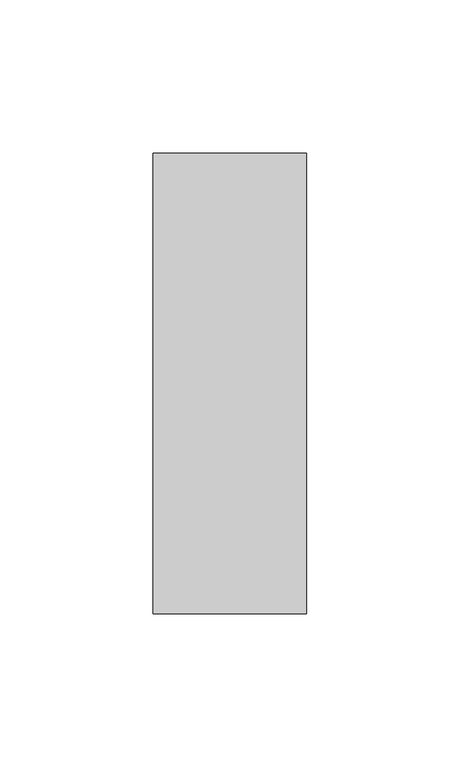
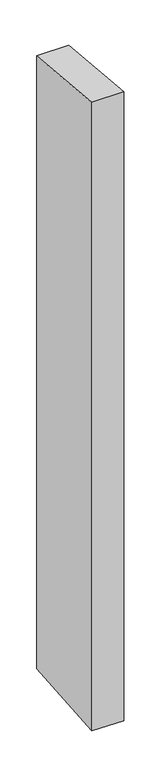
"""IFC4 building model written with IfcOpenShell, lengths in millimetres: member geometry, Прямоугольный импост : 50 x 150 мм."""

import ifcopenshell
import ifcopenshell.guid

model = None  # the IFC model being written
_history = None  # IfcOwnerHistory: only IFC2X3 demands one
_inside = {}  # id of a spatial element -> (the spatial element, [elements in it])
_under = {}  # id of a project, library or spatial element -> (it, [spatial elements below it])
_declared = {}  # id of a project -> (the project, [libraries it declares])
_typed = {}  # id of a type object -> (the type object, [elements of that type])
_made_of = {}  # id of a material, layer set ... -> (it, [elements and type objects made of it])


def new_model(schema):
    """Start an empty IFC model of exactly this schema.

    Asked for "IFC4X3", IfcOpenShell would pick the latest addendum, in which some entities
    have other attributes; the version numbers below select the first issue.
    IFC2X3 requires an IfcOwnerHistory on every rooted entity: one is made here for all.
    """
    global model, _history
    if schema == "IFC4X3":
        model = ifcopenshell.file(schema_version=(4, 3, 0, 0))
    else:
        model = ifcopenshell.file(schema=schema)
    _inside.clear()
    _under.clear()
    _declared.clear()
    _typed.clear()
    _made_of.clear()
    _history = None
    if model.schema == "IFC2X3":
        org = make("IfcOrganization", Name="unknown")
        user = make(
            "IfcPersonAndOrganization",
            ThePerson=make("IfcPerson", FamilyName="unknown"),
            TheOrganization=org,
        )
        app = make(
            "IfcApplication",
            ApplicationDeveloper=org,
            Version="unknown",
            ApplicationFullName="unknown",
            ApplicationIdentifier="unknown",
        )
        _history = make(
            "IfcOwnerHistory",
            OwningUser=user,
            OwningApplication=app,
            ChangeAction="ADDED",
            CreationDate=0,
        )
    return model


def make(cls, **values):
    """One entity of the class cls with the attributes given. An attribute that is None is left unset."""
    return model.create_entity(
        cls, **{name: value for name, value in values.items() if value is not None}
    )


def rooted(cls, **values):
    """An entity with a GlobalId (a new one), such as an element, a storey or a relation."""
    return make(cls, GlobalId=ifcopenshell.guid.new(), OwnerHistory=_history, **values)


def si_unit(unit_type, name, prefix=None):
    """IfcSIUnit, for example si_unit("LENGTHUNIT", "METRE", prefix="MILLI")."""
    return make("IfcSIUnit", UnitType=unit_type, Prefix=prefix, Name=name)


def assignment(units):
    """IfcUnitAssignment: the units of a project."""
    return None if units is None else make("IfcUnitAssignment", Units=units)


def point(xyz):
    """IfcCartesianPoint."""
    return None if xyz is None else make("IfcCartesianPoint", Coordinates=xyz)


def direction(xyz):
    """IfcDirection."""
    return None if xyz is None else make("IfcDirection", DirectionRatios=xyz)


def frame(location, z_axis=None, x_axis=None):
    """IfcAxis2Placement3D, a coordinate frame: its origin and axes. An axis left out is left unset."""
    return make(
        "IfcAxis2Placement3D",
        Location=point(location),
        Axis=direction(z_axis),
        RefDirection=direction(x_axis),
    )


def origin():
    """The frame at (0, 0, 0) with its axes left unset."""
    return frame((0.0, 0.0, 0.0))


def place(relative_to, where):
    """IfcLocalPlacement: puts the frame where relative to a parent placement (None: the world)."""
    return make(
        "IfcLocalPlacement", PlacementRelTo=relative_to, RelativePlacement=where
    )


def context(
    kind, dimensions, precision=None, world=None, true_north=None, identifier=None
):
    """IfcGeometricRepresentationContext, for example the 3D "Model" context."""
    return make(
        "IfcGeometricRepresentationContext",
        ContextIdentifier=identifier,
        ContextType=kind,
        CoordinateSpaceDimension=dimensions,
        Precision=precision,
        WorldCoordinateSystem=world,
        TrueNorth=true_north,
    )


def project(units=None, contexts=None):
    """IfcProject with its units and contexts."""
    return rooted(
        "IfcProject",
        Name="project",
        RepresentationContexts=contexts,
        UnitsInContext=assignment(units),
    )


def spatial(cls, under=None, at=None, **own):
    """A site, building, storey or space (cls), placed at a placement, below another one or the project."""
    s = rooted(cls, ObjectPlacement=at, **own)
    if under is not None:
        _under.setdefault(under.id(), (under, []))[1].append(s)
    return s


def faces_of(points, faces, orient=None, outer=None):
    """IfcFace entities. A face is a list of loops; a loop is a list of indices into points, from 0.

    orient and outer hold one flag for each loop. By default every Orientation is true, the
    first loop of a face is its IfcFaceOuterBound and the others are IfcFaceBound.
    """
    made = []
    for i, loops in enumerate(faces):
        bounds = []
        for j, loop in enumerate(loops):
            is_outer = j == 0 if outer is None else outer[i][j]
            bounds.append(
                make(
                    "IfcFaceOuterBound" if is_outer else "IfcFaceBound",
                    Bound=make("IfcPolyLoop", Polygon=[points[k] for k in loop]),
                    Orientation=True if orient is None else orient[i][j],
                )
            )
        made.append(make("IfcFace", Bounds=bounds))
    return made


def faceted_brep(points, faces, orient=None, outer=None, voids=None):
    """IfcFacetedBrep: a solid bounded by flat faces; with voids (closed shells), ...WithVoids."""
    shared = [point(p) for p in points]
    hull = make("IfcClosedShell", CfsFaces=faces_of(shared, faces, orient, outer))
    if voids is None:
        return make("IfcFacetedBrep", Outer=hull)
    return make(
        "IfcFacetedBrepWithVoids",
        Outer=hull,
        Voids=[
            make(cls, CfsFaces=faces_of(shared, fs, o, b)) for cls, fs, o, b in voids
        ],
    )


def shape(context_of_items, identifier, shape_type, items):
    """IfcShapeRepresentation: the items that make up one representation, for example the "Body"."""
    return make(
        "IfcShapeRepresentation",
        ContextOfItems=context_of_items,
        RepresentationIdentifier=identifier,
        RepresentationType=shape_type,
        Items=items,
    )


def source(mapping_origin, context_of_items, identifier, shape_type, items):
    """IfcRepresentationMap: a shape defined once, which mapped items show again and again."""
    return make(
        "IfcRepresentationMap",
        MappingOrigin=mapping_origin,
        MappedRepresentation=shape(context_of_items, identifier, shape_type, items),
    )


def transform(
    local_origin,
    x_axis=None,
    y_axis=None,
    z_axis=None,
    scale=None,
    scale2=None,
    scale3=None,
    uniform=True,
):
    """IfcCartesianTransformationOperator3D, or its non-uniform kind. x_axis, y_axis, z_axis: its Axis1, 2, 3."""
    if uniform:
        return make(
            "IfcCartesianTransformationOperator3D",
            Axis1=direction(x_axis),
            Axis2=direction(y_axis),
            LocalOrigin=point(local_origin),
            Scale=scale,
            Axis3=direction(z_axis),
        )
    return make(
        "IfcCartesianTransformationOperator3DnonUniform",
        Axis1=direction(x_axis),
        Axis2=direction(y_axis),
        LocalOrigin=point(local_origin),
        Scale=scale,
        Axis3=direction(z_axis),
        Scale2=scale2,
        Scale3=scale3,
    )


def mapped(mapping_source, mapping_target):
    """IfcMappedItem: shows the shape of a source again, moved by a transform."""
    return make(
        "IfcMappedItem", MappingSource=mapping_source, MappingTarget=mapping_target
    )


def made_of(thing, what):
    """Note that an element or type object is made of a material, layer set ...; save() writes the relation."""
    if what is not None:
        _made_of.setdefault(what.id(), (what, []))[1].append(thing)
    return thing


def element(
    cls,
    number,
    at=None,
    inside=None,
    cuts=None,
    type_object=None,
    material=None,
    context=None,
    identifier="Body",
    shape_type=None,
    held_by="IfcProductDefinitionShape",
    body=None,
    shapes=None,
    **own,
):
    """One element of the class cls, such as IfcWall. Its Tag is "e" and its number.

    at: its placement. inside: the storey or other place that contains it. cuts: it is an
    opening in that element (IfcRelVoidsElement). A single representation is given by context,
    identifier, shape_type and body (its items); several are given by shapes. held_by: the class
    of the entity that holds the representations. save() writes the other relations.
    """
    e = rooted(cls, Tag="e%d" % number, ObjectPlacement=at, **own)
    if body is not None:
        shapes = [shape(context, identifier, shape_type, body)]
    if shapes is not None:
        e.Representation = make(held_by, Representations=shapes)
    if inside is not None:
        _inside.setdefault(inside.id(), (inside, []))[1].append(e)
    if cuts is not None:
        rooted(
            "IfcRelVoidsElement", RelatingBuildingElement=cuts, RelatedOpeningElement=e
        )
    if type_object is not None:
        _typed.setdefault(type_object.id(), (type_object, []))[1].append(e)
    return made_of(e, material)


def aggregate(whole, parts):
    """IfcRelAggregates: a whole, such as a stair, and the parts it consists of."""
    return rooted("IfcRelAggregates", RelatingObject=whole, RelatedObjects=parts)


def save(model, path):
    """Write the relations noted so far, then the file.

    IfcRelAggregates (storeys below a building ...), IfcRelContainedInSpatialStructure (elements
    in a storey), IfcRelDefinesByType, IfcRelAssociatesMaterial and IfcRelDeclares: one each for
    every whole, place, type object, material and project.
    """
    for whole, parts in _under.values():
        aggregate(whole, parts)
    for where, things in _inside.values():
        rooted(
            "IfcRelContainedInSpatialStructure",
            RelatedElements=things,
            RelatingStructure=where,
        )
    for kind, things in _typed.values():
        rooted("IfcRelDefinesByType", RelatedObjects=things, RelatingType=kind)
    for what, things in _made_of.values():
        rooted("IfcRelAssociatesMaterial", RelatedObjects=things, RelatingMaterial=what)
    for by, libraries in _declared.values():
        rooted("IfcRelDeclares", RelatingContext=by, RelatedDefinitions=libraries)
    model.write(path)


def member_40b34301(model_context):
    return source(origin(), model_context, "Body", "Brep", [
        faceted_brep([(-25.0, 75.0, -7.0551764), (25.0, 75.0, -6.7163771), (25.0, 75.0, -1024.243512), (-25.0, 75.0, -1023.733028), (-25.0, -75.0, 6.7163771), (-25.0, -75.0, -1035.8082009), (25.0, -75.0, 7.0551764), (25.0, -75.0, -1036.3186849)], [[[0, 1, 2, 3]], [[4, 0, 3, 5]], [[6, 4, 5, 7]], [[1, 6, 7, 2]], [[1, 0, 4, 6]], [[2, 7, 5, 3]]]),
    ])


if __name__ == "__main__":
    model = new_model("IFC4")
    model_context = context("Model", 3, world=origin())
    ifc_project = project(units=[si_unit("LENGTHUNIT", "METRE", prefix="MILLI")], contexts=[model_context])
    site = spatial("IfcSite", under=ifc_project)
    building = spatial("IfcBuilding", under=site)
    placement = place(None, origin())
    member_shape = member_40b34301(model_context)
    element("IfcMember", 1, ObjectType="Прямоугольный импост : 50 x 150 мм", at=placement, inside=building, context=model_context, shape_type="MappedRepresentation", body=[
        mapped(member_shape, transform((0.0, 0.0, 0.0), x_axis=(1.0, 0.0, 0.0), y_axis=(0.0, 1.0, 0.0), z_axis=(0.0, 0.0, 1.0))),
    ])
    save(model, "model.ifc")
